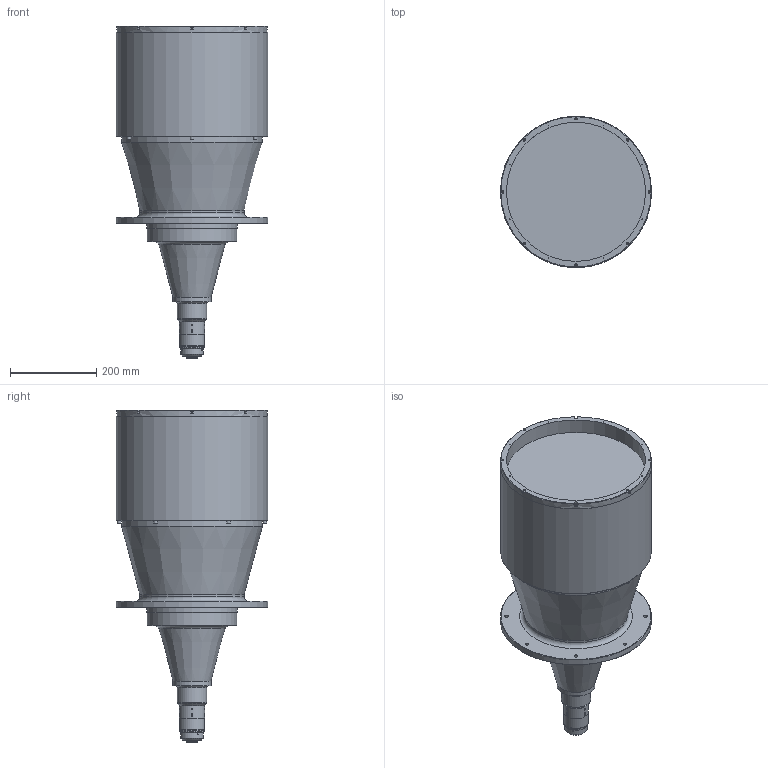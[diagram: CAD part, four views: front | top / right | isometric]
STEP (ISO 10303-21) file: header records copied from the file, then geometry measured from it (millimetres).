
FILE_DESCRIPTION (( 'STEP AP203' ), '1' );
FILE_NAME ('3d_mtl-31018c-006_a002.STEP', '2017-06-16T03:02:56', ( '' ), ( '' ), 'SwSTEP 2.0', 'SolidWorks 2014', '' );
FILE_SCHEMA (( 'CONFIG_CONTROL_DESIGN' ));
Length unit declared in the file: millimetre
Products named in the file (1): 3d_mtl-31018c-006_a002
Bounding box: 350 x 350 x 768.45 mm (x, y, z)
Volume: 38459328.1 mm3; surface area: 858135 mm2
Topology: 1 solids, 9 shells, 1011 faces, 2340 edges, 1423 vertices
Faces by surface type: plane 648, cone 200, cylinder 111, torus 44, sphere 8
Full cylindrical faces by diameter (mm): 1.5 x8, 1.6 x4, 2.5 x3, 3.2 x4, 3.5 x8, 3.8 x3, 5.5 x8, 6.8 x4, 7 x4, 8 x4, 8.5 x10, 9 x4, 10 x4, 22.5 x1, 24.7 x1, 25.4 x1, 29 x1, 33.2 x1, 37 x1, 38 x2, 42 x1, 44 x1, 45 x1, 53 x1, 57 x1, 58 x3, 68 x2, 84.5 x1, 88 x1, 208 x1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
Entity records: 27259 total; most frequent: CARTESIAN_POINT 5659, DIRECTION 4642, ORIENTED_EDGE 4006, EDGE_CURVE 2003, AXIS2_PLACEMENT_3D 1809, EDGE_LOOP 1353, VERTEX_POINT 1322, FACE_OUTER_BOUND 1158
